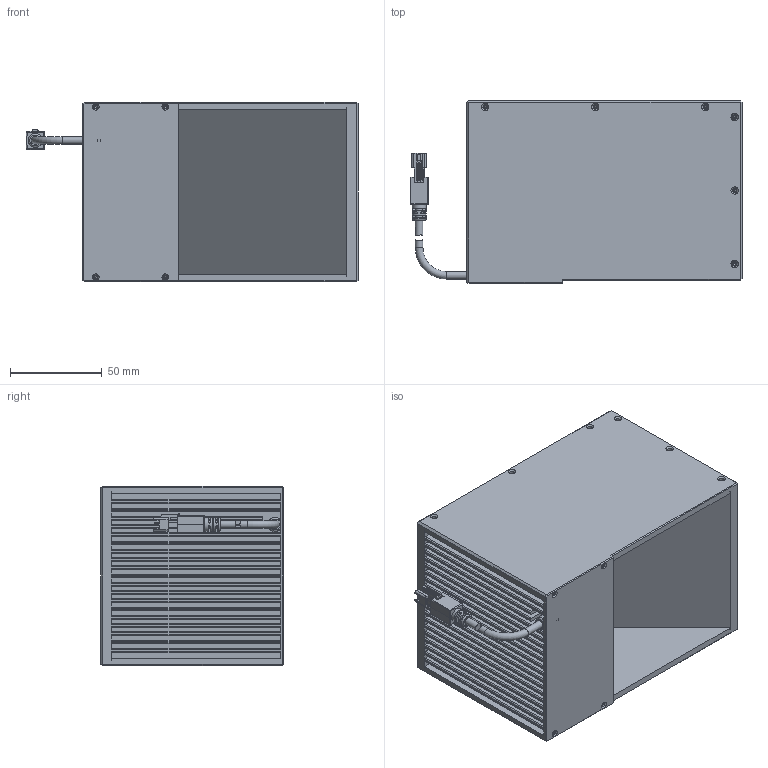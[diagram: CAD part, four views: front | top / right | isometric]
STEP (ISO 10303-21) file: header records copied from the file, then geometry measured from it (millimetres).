
FILE_DESCRIPTION (( 'STEP AP203' ), '1' );
FILE_NAME ('OPT-CO100-X-V4.3尨砩芞.STEP', '2025-01-22T05:41:43', ( '' ), ( '' ), 'SwSTEP 2.0', 'SolidWorks 2016', '' );
FILE_SCHEMA (( 'CONFIG_CONTROL_DESIGN' ));
Length unit declared in the file: millimetre
Products named in the file (1): OPT-CO100-X-V4.3尨砩芞
Bounding box: 180.98 x 99.5 x 98 mm (x, y, z)
Volume: 979673.7 mm3; surface area: 162365.9 mm2
Topology: 6 solids, 14 shells, 687 faces, 1736 edges, 1114 vertices
Faces by surface type: plane 427, cylinder 184, cone 48, bspline 20, torus 8
Full cylindrical faces by diameter (mm): 1.6 x20, 2 x4, 2.4 x16, 3.5 x1, 4.1 x3, 4.2 x4, 5.8 x1, 7.5 x2, 8 x1
Entity records: 20242 total; most frequent: CARTESIAN_POINT 4255, DIRECTION 3242, ORIENTED_EDGE 3174, EDGE_CURVE 1587, VECTOR 1144, LINE 1144, VERTEX_POINT 1076, AXIS2_PLACEMENT_3D 1049
